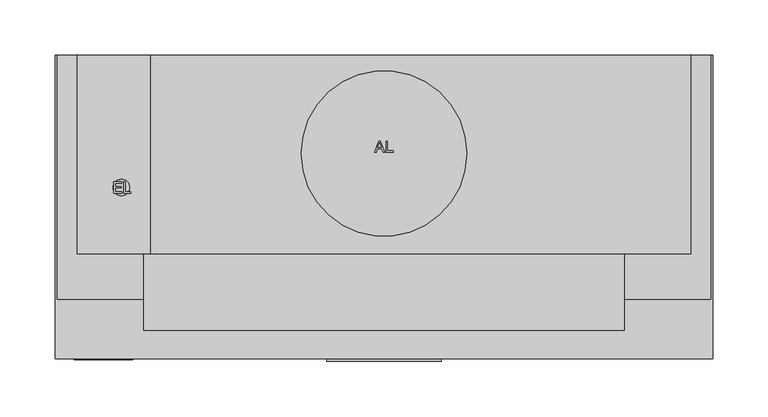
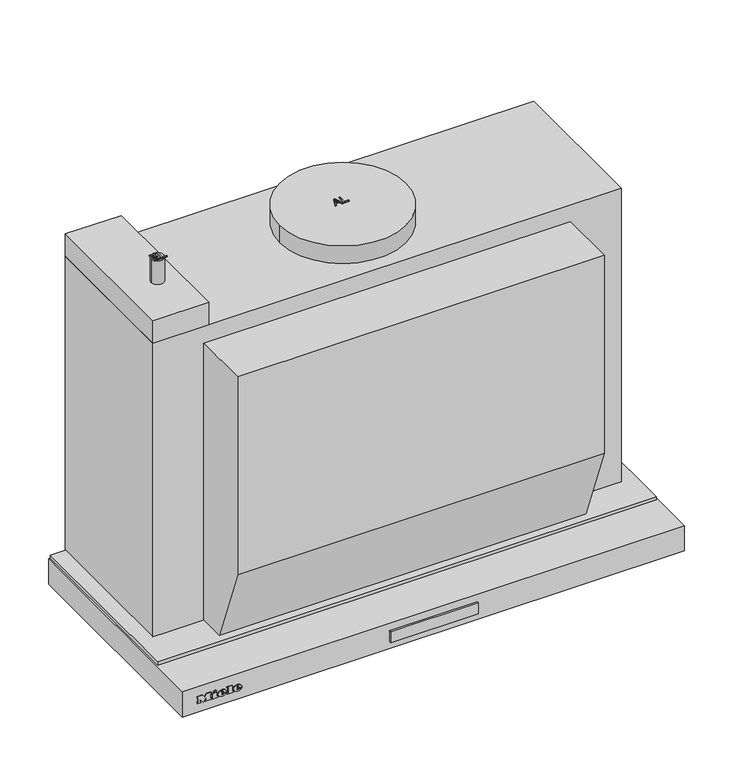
"""IFC4 building model written with IfcOpenShell, lengths in millimetres: proxy geometry, 11878490_USA_DAS2620_EDST : 28S2620S_USA_11878490_DAS2620_EDST."""

from ifc_helpers import new_model, si_unit, point, frame, frame_2d, origin, origin_with_axes, place, context, project, spatial, polyline, circle_curve, ellipse_curve, trimmed, segment, composite_curve, outline, extrude, faceted_brep, source, transform, mapped, element, save
from ifc_brep_helpers import plane_surface, cylinder_surface, revolved_surface, extruded_surface, advanced_brep


def specialty_equipment_a0b4541a(model_context):
    return source(origin(), model_context, "Body", "SolidModel", [
        extrude(outline(polyline([(52.0, -275.0), (52.0, -277.3978707), (-52.0, -277.3978707), (-52.0, -275.0), (52.0, -275.0)])), frame((0.0, 0.0, -23.0389651), z_axis=(0.0, 0.0, 1.0), x_axis=(1.0, 0.0, 0.0)), (0.0, 0.0, 1.0), 13.3389155),
        advanced_brep(
        [(-233.4590019, -276.0, -18.7681017), (-233.4590019, -276.0, -17.8894017), (-227.6387019, -276.0, -17.8894017), (-237.7655019, -276.0, -17.8894017), (-235.3730019, -276.0, -20.8300017), (-227.7866019, -276.0, -18.7681017), (-230.4140019, -276.0, -18.7681017), (-232.4846019, -276.0, -19.7425017), (-233.4590019, -276.0, -16.7758017), (-233.4590019, -276.0, -15.8275017), (-231.9713019, -276.0, -15.8275017), (-231.9713019, -276.0, -16.7758017), (-233.4590019, -275.0, -18.7681017), (-232.4846019, -275.0, -19.7425017), (-230.4140019, -275.0, -18.7681017), (-227.7866019, -275.0, -18.7681017), (-235.3730019, -275.0, -20.8300017), (-237.7655019, -275.0, -17.8894017), (-227.6387019, -275.0, -17.8894017), (-233.4590019, -275.0, -17.8894017), (-233.4590019, -275.0, -16.7758017), (-231.9713019, -275.0, -16.7758017), (-231.9713019, -275.0, -15.8275017), (-233.4590019, -275.0, -15.8275017)],
        [
            (0, 1),
            (1, 2),
            (2, 3, ellipse_curve(frame((-232.7021019, -276.0, -17.8894017), z_axis=(0.0, -1.0, 0.0), x_axis=(-1.0, 0.0, 0.0)), 5.0634, 4.1847)),
            (3, 4, circle_curve(frame((-234.3985544, -276.0, -17.5936017), z_axis=(0.0, -1.0, 0.0), x_axis=(0.0, 0.0, -1.0)), 3.3799161)),
            (4, 5, circle_curve(frame((-232.8034638, -276.0, -15.2968017), z_axis=(0.0, -1.0, 0.0), x_axis=(0.0, 0.0, -1.0)), 6.1007236)),
            (5, 6),
            (6, 7, circle_curve(frame((-232.0593254, -276.0, -17.9590017), z_axis=(0.0, 1.0, 0.0), x_axis=(0.0, 0.0, -1.0)), 1.8335027)),
            (7, 0, circle_curve(frame((-232.4846019, -276.0, -18.7681017), z_axis=(0.0, 1.0, 0.0), x_axis=(0.0, 0.0, -1.0)), 0.9744)),
            (8, 9),
            (9, 10, circle_curve(frame((-232.7151519, -276.0, -15.8275017), z_axis=(0.0, 1.0, 0.0), x_axis=(0.0, 0.0, -1.0)), 0.74385)),
            (10, 11),
            (11, 8),
            (12, 13, circle_curve(frame((-232.4846019, -275.0, -18.7681017), z_axis=(0.0, -1.0, 0.0), x_axis=(0.0, 0.0, -1.0)), 0.9744)),
            (13, 14, circle_curve(frame((-232.0593254, -275.0, -17.9590017), z_axis=(0.0, -1.0, 0.0), x_axis=(0.0, 0.0, -1.0)), 1.8335027)),
            (14, 15),
            (15, 16, circle_curve(frame((-232.8034638, -275.0, -15.2968017), z_axis=(0.0, 1.0, 0.0), x_axis=(0.0, 0.0, -1.0)), 6.1007236)),
            (16, 17, circle_curve(frame((-234.3985544, -275.0, -17.5936017), z_axis=(0.0, 1.0, 0.0), x_axis=(0.0, 0.0, -1.0)), 3.3799161)),
            (17, 18, ellipse_curve(frame((-232.7021019, -275.0, -17.8894017), z_axis=(0.0, 1.0, 0.0), x_axis=(-1.0, 0.0, 0.0)), 5.0634, 4.1847)),
            (18, 19),
            (19, 12),
            (20, 21),
            (21, 22),
            (22, 23, circle_curve(frame((-232.7151519, -275.0, -15.8275017), z_axis=(0.0, -1.0, 0.0), x_axis=(0.0, 0.0, -1.0)), 0.74385)),
            (23, 20),
            (0, 12),
            (19, 1),
            (18, 2),
            (5, 15),
            (14, 6),
            (17, 3),
            (13, 7),
            (16, 4),
            (8, 20),
            (23, 9),
            (22, 10),
            (21, 11),
        ],
        [
            plane_surface(frame((-233.4590019, -276.0, -17.8894017), z_axis=(0.0, -1.0, 0.0), x_axis=(0.0, 0.0, 1.0))),
            plane_surface(frame((-233.4590019, -275.0, -17.8894017), z_axis=(0.0, 1.0, 0.0), x_axis=(0.0, 0.0, -1.0))),
            plane_surface(frame((-233.4590019, -276.0, -18.7681017), z_axis=(1.0, 0.0, 0.0), x_axis=(0.0, 1.0, 0.0))),
            plane_surface(frame((-233.4590019, -276.0, -17.8894017), z_axis=(0.0, 0.0, -1.0), x_axis=(0.0, 1.0, 0.0))),
            plane_surface(frame((-227.7866019, -276.0, -18.7681017), z_axis=(0.0, 0.0, 1.0), x_axis=(0.0, 1.0, 0.0))),
            extruded_surface(trimmed(ellipse_curve(frame((-232.7021019, -274.0, -17.8894017), z_axis=(0.0, -1.0, 0.0), x_axis=(-1.0, 0.0, 0.0)), 5.0634, 4.1847), [point((-227.6387019, -274.0, -17.8894017))], [point((-237.7655019, -274.0, -17.8894017))], True, "CARTESIAN"), (0.0, -1.0, 0.0), 1.0),
            revolved_surface(polyline([(-232.0593254, -275.0, -19.792504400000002), (-232.0593254, -276.0, -19.792504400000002)]), (-232.0593254, -275.0, -17.9590017), (0.0, 1.0, 0.0)),
            revolved_surface(polyline([(-232.4846019, -275.0, -19.7425017), (-232.4846019, -276.0, -19.7425017)]), (-232.4846019, -275.0, -18.7681017), (0.0, 1.0, 0.0)),
            cylinder_surface(frame((-234.3985544, -275.0, -17.5936017), z_axis=(0.0, -1.0, 0.0), x_axis=(0.0, 0.0, -1.0)), 3.3799161),
            cylinder_surface(frame((-232.8034638, -275.0, -15.2968017), z_axis=(0.0, -1.0, 0.0), x_axis=(0.0, 0.0, -1.0)), 6.1007236),
            plane_surface(frame((-233.4590019, -276.0, -16.7758017), z_axis=(1.0, 0.0, 0.0), x_axis=(0.0, 1.0, 0.0))),
            revolved_surface(polyline([(-232.7151519, -275.0, -16.571351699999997), (-232.7151519, -276.0, -16.571351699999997)]), (-232.7151519, -275.0, -15.8275017), (0.0, 1.0, 0.0)),
            plane_surface(frame((-231.9713019, -276.0, -15.8275017), z_axis=(-1.0, 0.0, 0.0), x_axis=(0.0, 1.0, 0.0))),
            plane_surface(frame((-231.9713019, -276.0, -16.7758017), z_axis=(0.0, 0.0, 1.0), x_axis=(0.0, 1.0, 0.0))),
        ],
        [
            (0, [[1, 2, 3, 4, 5, 6, 7, 8], [9, 10, 11, 12]]),
            (1, [[13, 14, 15, 16, 17, 18, 19, 20], [21, 22, 23, 24]]),
            (2, [[-1, 25, -20, 26]]),
            (3, [[-2, -26, -19, 27]]),
            (4, [[-6, 28, -15, 29]]),
            (5, [[-3, -27, -18, 30]]),
            (6, [[-7, -29, -14, 31]]),
            (7, [[-8, -31, -13, -25]]),
            (8, [[-4, -30, -17, 32]]),
            (9, [[-5, -32, -16, -28]]),
            (10, [[-9, 33, -24, 34]]),
            (11, [[-10, -34, -23, 35]]),
            (12, [[-11, -35, -22, 36]]),
            (13, [[-12, -36, -21, -33]]),
        ],
    ),
        advanced_brep(
        [(-251.6159019, -276.0, -18.7681017), (-251.6159019, -276.0, -17.8894017), (-245.7956019, -276.0, -17.8894017), (-255.9224019, -276.0, -17.8894017), (-253.5299019, -276.0, -20.8300017), (-245.9435019, -276.0, -18.7681017), (-248.5709019, -276.0, -18.7681017), (-250.6415019, -276.0, -19.7425017), (-251.6159019, -276.0, -16.7758017), (-251.6159019, -276.0, -15.8275017), (-250.1282019, -276.0, -15.8275017), (-250.1282019, -276.0, -16.7758017), (-251.6159019, -275.0, -18.7681017), (-250.6415019, -275.0, -19.7425017), (-248.5709019, -275.0, -18.7681017), (-245.9435019, -275.0, -18.7681017), (-253.5299019, -275.0, -20.8300017), (-255.9224019, -275.0, -17.8894017), (-245.7956019, -275.0, -17.8894017), (-251.6159019, -275.0, -17.8894017), (-251.6159019, -275.0, -16.7758017), (-250.1282019, -275.0, -16.7758017), (-250.1282019, -275.0, -15.8275017), (-251.6159019, -275.0, -15.8275017)],
        [
            (0, 1),
            (1, 2),
            (2, 3, ellipse_curve(frame((-250.8590019, -276.0, -17.8894017), z_axis=(0.0, -1.0, 0.0), x_axis=(-1.0, 0.0, 0.0)), 5.0634, 4.1847)),
            (3, 4, circle_curve(frame((-252.5554544, -276.0, -17.5936017), z_axis=(0.0, -1.0, 0.0), x_axis=(0.0, 0.0, -1.0)), 3.3799161)),
            (4, 5, circle_curve(frame((-250.9603638, -276.0, -15.2968017), z_axis=(0.0, -1.0, 0.0), x_axis=(0.0, 0.0, -1.0)), 6.1007236)),
            (5, 6),
            (6, 7, circle_curve(frame((-250.2162254, -276.0, -17.9590017), z_axis=(0.0, 1.0, 0.0), x_axis=(0.0, 0.0, -1.0)), 1.8335027)),
            (7, 0, circle_curve(frame((-250.6415019, -276.0, -18.7681017), z_axis=(0.0, 1.0, 0.0), x_axis=(0.0, 0.0, -1.0)), 0.9744)),
            (8, 9),
            (9, 10, circle_curve(frame((-250.8720519, -276.0, -15.8275017), z_axis=(0.0, 1.0, 0.0), x_axis=(0.0, 0.0, -1.0)), 0.74385)),
            (10, 11),
            (11, 8),
            (12, 13, circle_curve(frame((-250.6415019, -275.0, -18.7681017), z_axis=(0.0, -1.0, 0.0), x_axis=(0.0, 0.0, -1.0)), 0.9744)),
            (13, 14, circle_curve(frame((-250.2162254, -275.0, -17.9590017), z_axis=(0.0, -1.0, 0.0), x_axis=(0.0, 0.0, -1.0)), 1.8335027)),
            (14, 15),
            (15, 16, circle_curve(frame((-250.9603638, -275.0, -15.2968017), z_axis=(0.0, 1.0, 0.0), x_axis=(0.0, 0.0, -1.0)), 6.1007236)),
            (16, 17, circle_curve(frame((-252.5554544, -275.0, -17.5936017), z_axis=(0.0, 1.0, 0.0), x_axis=(0.0, 0.0, -1.0)), 3.3799161)),
            (17, 18, ellipse_curve(frame((-250.8590019, -275.0, -17.8894017), z_axis=(0.0, 1.0, 0.0), x_axis=(-1.0, 0.0, 0.0)), 5.0634, 4.1847)),
            (18, 19),
            (19, 12),
            (20, 21),
            (21, 22),
            (22, 23, circle_curve(frame((-250.8720519, -275.0, -15.8275017), z_axis=(0.0, -1.0, 0.0), x_axis=(0.0, 0.0, -1.0)), 0.74385)),
            (23, 20),
            (0, 12),
            (19, 1),
            (18, 2),
            (5, 15),
            (14, 6),
            (17, 3),
            (13, 7),
            (16, 4),
            (8, 20),
            (23, 9),
            (22, 10),
            (21, 11),
        ],
        [
            plane_surface(frame((-251.6159019, -276.0, -17.8894017), z_axis=(0.0, -1.0, 0.0), x_axis=(0.0, 0.0, 1.0))),
            plane_surface(frame((-251.6159019, -275.0, -17.8894017), z_axis=(0.0, 1.0, 0.0), x_axis=(0.0, 0.0, -1.0))),
            plane_surface(frame((-251.6159019, -276.0, -18.7681017), z_axis=(1.0, 0.0, 0.0), x_axis=(0.0, 1.0, 0.0))),
            plane_surface(frame((-251.6159019, -276.0, -17.8894017), z_axis=(0.0, 0.0, -1.0), x_axis=(0.0, 1.0, 0.0))),
            plane_surface(frame((-245.9435019, -276.0, -18.7681017), z_axis=(0.0, 0.0, 1.0), x_axis=(0.0, 1.0, 0.0))),
            extruded_surface(trimmed(ellipse_curve(frame((-250.8590019, -274.0, -17.8894017), z_axis=(0.0, -1.0, 0.0), x_axis=(-1.0, 0.0, 0.0)), 5.0634, 4.1847), [point((-245.7956019, -274.0, -17.8894017))], [point((-255.9224019, -274.0, -17.8894017))], True, "CARTESIAN"), (0.0, -1.0, 0.0), 1.0),
            revolved_surface(polyline([(-250.2162254, -275.0, -19.792504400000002), (-250.2162254, -276.0, -19.792504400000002)]), (-250.2162254, -275.0, -17.9590017), (0.0, 1.0, 0.0)),
            revolved_surface(polyline([(-250.6415019, -275.0, -19.7425017), (-250.6415019, -276.0, -19.7425017)]), (-250.6415019, -275.0, -18.7681017), (0.0, 1.0, 0.0)),
            cylinder_surface(frame((-252.5554544, -275.0, -17.5936017), z_axis=(0.0, -1.0, 0.0), x_axis=(0.0, 0.0, -1.0)), 3.3799161),
            cylinder_surface(frame((-250.9603638, -275.0, -15.2968017), z_axis=(0.0, -1.0, 0.0), x_axis=(0.0, 0.0, -1.0)), 6.1007236),
            plane_surface(frame((-251.6159019, -276.0, -16.7758017), z_axis=(1.0, 0.0, 0.0), x_axis=(0.0, 1.0, 0.0))),
            revolved_surface(polyline([(-250.8720519, -275.0, -16.571351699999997), (-250.8720519, -276.0, -16.571351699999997)]), (-250.8720519, -275.0, -15.8275017), (0.0, 1.0, 0.0)),
            plane_surface(frame((-250.1282019, -276.0, -15.8275017), z_axis=(-1.0, 0.0, 0.0), x_axis=(0.0, 1.0, 0.0))),
            plane_surface(frame((-250.1282019, -276.0, -16.7758017), z_axis=(0.0, 0.0, 1.0), x_axis=(0.0, 1.0, 0.0))),
        ],
        [
            (0, [[1, 2, 3, 4, 5, 6, 7, 8], [9, 10, 11, 12]]),
            (1, [[13, 14, 15, 16, 17, 18, 19, 20], [21, 22, 23, 24]]),
            (2, [[-1, 25, -20, 26]]),
            (3, [[-2, -26, -19, 27]]),
            (4, [[-6, 28, -15, 29]]),
            (5, [[-3, -27, -18, 30]]),
            (6, [[-7, -29, -14, 31]]),
            (7, [[-8, -31, -13, -25]]),
            (8, [[-4, -30, -17, 32]]),
            (9, [[-5, -32, -16, -28]]),
            (10, [[-9, 33, -24, 34]]),
            (11, [[-10, -34, -23, 35]]),
            (12, [[-11, -35, -22, 36]]),
            (13, [[-12, -36, -21, -33]]),
        ],
    ),
        extrude(outline(polyline([(-12.6433017, -261.1250019), (-14.0527017, -260.4638019), (-12.6781017, -257.5145019), (-11.2687017, -258.1670019), (-12.6433017, -261.1250019)])), frame((0.0, -276.0, 0.0), z_axis=(0.0, 1.0, 0.0), x_axis=(0.0, 0.0, 1.0)), (0.0, 0.0, 1.0), 1.0),
        extrude(outline(polyline([(-14.2441017, -263.2739019), (-15.8014017, -263.2739019), (-15.8014017, -262.2386019), (-19.3684017, -262.2386019), (-19.3684017, -263.2739019), (-20.8300017, -263.2739019), (-20.8300017, -256.4096019), (-19.3684017, -256.4096019), (-19.3684017, -257.4188019), (-14.2441017, -257.4188019), (-14.2441017, -263.2739019)])), frame((0.0, -276.0, 0.0), z_axis=(0.0, 1.0, 0.0), x_axis=(0.0, 0.0, 1.0)), (0.0, 0.0, 1.0), 1.0),
        extrude(outline(polyline([(-13.5481017, -245.3084019), (-13.5481017, -244.2644019), (-19.3684017, -244.2644019), (-19.3684017, -245.3084019), (-20.8300017, -245.3084019), (-20.8300017, -238.2527019), (-19.3684017, -238.2527019), (-19.3684017, -239.3228019), (-12.1300017, -239.3228019), (-12.1300017, -245.3084019), (-13.5481017, -245.3084019)])), frame((0.0, -276.0, 0.0), z_axis=(0.0, 1.0, 0.0), x_axis=(0.0, 0.0, 1.0)), (0.0, 0.0, 1.0), 1.0),
        extrude(outline(polyline([(-13.5481017, -280.6130019), (-13.5481017, -279.5603019), (-19.3684017, -279.5603019), (-19.3684017, -280.6130019), (-20.8300017, -280.6130019), (-20.8300017, -276.7850019), (-19.3684017, -276.7850019), (-19.3684017, -277.8290019), (-15.6719769, -277.8290019), (-20.8300017, -273.9401019), (-15.5772794, -270.0338019), (-19.3684017, -270.0338019), (-19.3684017, -271.1039019), (-20.8300017, -271.1039019), (-20.8300017, -264.1613019), (-19.3684017, -264.1613019), (-19.3684017, -265.2662019), (-13.5481017, -265.2662019), (-13.5481017, -264.1613019), (-12.1300017, -264.1613019), (-12.1300017, -269.4596019), (-15.3925017, -272.0000019), (-12.1300017, -274.5491019), (-12.1300017, -280.6130019), (-13.5481017, -280.6130019)])), frame((0.0, -276.0, 0.0), z_axis=(0.0, 1.0, 0.0), x_axis=(0.0, 0.0, 1.0)), (0.0, 0.0, 1.0), 1.0),
        extrude(outline(polyline([(120.0, -19.25), (120.0, -31.75), (-120.0, -31.75), (-120.0, -19.25), (120.0, -19.25)])), frame((0.0, 0.0, -23.0), z_axis=(0.0, 0.0, 1.0), x_axis=(1.0, 0.0, 0.0)), (0.0, 0.0, 1.0), 1.785426),
        extrude(outline(polyline([(296.0, 0.0), (296.0, -221.0), (-296.0, -221.0), (-296.0, 0.0), (296.0, 0.0)])), origin_with_axes(), (0.0, 0.0, 1.0), 4.0),
        extrude(outline(polyline([(-8.547125, -87.975609), (-4.5372113, -77.929978), (-3.4679009, -77.929978), (0.5420128, -87.975609), (-0.7848149, -87.975609), (-1.9350593, -84.8363493), (-6.0725055, -84.8363493), (-7.2202973, -87.975609), (-8.547125, -87.975609)]), holes=[polyline([(-5.6114267, -83.5806455), (-2.3936855, -83.5806455), (-3.2986752, -81.110931), (-4.0025561, -79.1856819), (-4.6279555, -80.8951069), (-5.6114267, -83.5806455)])]), frame((0.0, 0.0, 395.0), z_axis=(0.0, 0.0, 1.0), x_axis=(1.0, 0.0, 0.0)), (0.0, 0.0, 1.0), 1.0),
        extrude(outline(polyline([(1.8835558, -87.975609), (1.8835558, -77.929978), (3.1392597, -77.929978), (3.1392597, -86.7199052), (8.1620752, -86.7199052), (8.1620752, -87.975609), (1.8835558, -87.975609)])), frame((0.0, 0.0, 395.0), z_axis=(0.0, 0.0, 1.0), x_axis=(1.0, 0.0, 0.0)), (0.0, 0.0, 1.0), 1.0),
        extrude(outline(polyline([(-180.0, 352.0), (-180.0, 4.0), (-211.7966838, 4.0), (-249.5, 103.2192532), (-249.5, 352.0), (-180.0, 352.0)])), frame((-217.7156244, 0.0, 0.0), z_axis=(1.0, 0.0, 0.0), x_axis=(0.0, 1.0, 0.0)), (0.0, 0.0, 1.0), 435.4312488),
        faceted_brep([(298.0, 0.0, -32.0), (298.0, -275.0, -32.0), (-298.0, -275.0, -32.0), (-298.0, 0.0, -32.0), (-263.0, 0.0, -32.0), (-263.0, -242.0, -32.0), (263.0, -242.0, -32.0), (263.0, 0.0, -32.0), (298.0, 0.0, 0.0), (-298.0, 0.0, 0.0), (-298.0, -275.0, 0.0), (298.0, -275.0, 0.0), (263.0, 0.0, -24.0), (-263.0, 0.0, -24.0), (263.0, -242.0, -25.0), (-263.0, -242.0, -25.0), (-263.0, -52.0, -25.0), (263.0, -52.0, -25.0), (-263.0, -52.0, -24.0), (263.0, -52.0, -24.0), (126.0, -12.0, -24.0), (-126.0, -12.0, -24.0), (-126.0, -39.0, -24.0), (126.0, -39.0, -24.0), (126.0, -12.0, -21.214574), (126.0, -39.0, -21.214574), (-126.0, -39.0, -21.214574), (-126.0, -12.0, -21.214574)], [[[0, 1, 2, 3, 4, 5, 6, 7]], [[8, 9, 10, 11]], [[9, 8, 0, 7, 12, 13, 4, 3]], [[3, 2, 10, 9]], [[2, 1, 11, 10]], [[1, 0, 8, 11]], [[14, 15, 16, 17]], [[15, 5, 4, 13, 18, 16]], [[15, 14, 6, 5]], [[6, 14, 17, 19, 12, 7]], [[12, 19, 18, 13], [20, 21, 22, 23]], [[18, 19, 17, 16]], [[24, 25, 26, 27]], [[24, 27, 21, 20]], [[27, 26, 22, 21]], [[26, 25, 23, 22]], [[25, 24, 20, 23]]]),
        extrude(outline(polyline([(-278.0, -180.0), (-278.0, 0.0), (-212.0, 0.0), (-212.0, -180.0), (-278.0, -180.0)])), frame((0.0, 0.0, 373.0), z_axis=(0.0, 0.0, 1.0), x_axis=(1.0, 0.0, 0.0)), (0.0, 0.0, 1.0), 28.0),
        extrude(outline(composite_curve([segment(trimmed(circle_curve(frame_2d((0.0, -89.0)), 75.0), [point((-75.0, -89.0))], [point((75.0, -89.0))], False, "CARTESIAN"), True, "CONTINUOUS"), segment(trimmed(circle_curve(frame_2d((0.0, -89.0)), 75.0), [point((75.0, -89.0))], [point((-75.0, -89.0))], False, "CARTESIAN"), True, "CONTINUOUS")], self_intersect=False)), frame((0.0, 0.0, 373.0), z_axis=(0.0, 0.0, 1.0), x_axis=(1.0, 0.0, 0.0)), (0.0, 0.0, 1.0), 22.0),
        extrude(outline(polyline([(278.0, -180.0), (-278.0, -180.0), (-278.0, 0.0), (278.0, 0.0), (278.0, -180.0)])), frame((0.0, 0.0, 4.0), z_axis=(0.0, 0.0, 1.0), x_axis=(1.0, 0.0, 0.0)), (0.0, 0.0, 1.0), 369.0),
        extrude(outline(polyline([(-244.9012591, -124.9184735), (-244.9012591, -114.8728425), (-237.6809618, -114.8728425), (-237.6809618, -116.1285464), (-243.6455552, -116.1285464), (-243.6455552, -119.1108431), (-237.9948878, -119.1108431), (-237.9948878, -120.366547), (-243.6455552, -120.366547), (-243.6455552, -123.6627696), (-237.5239988, -123.6627696), (-237.5239988, -124.9184735), (-244.9012591, -124.9184735)])), frame((0.0, 0.0, 431.0), z_axis=(0.0, 0.0, 1.0), x_axis=(1.0, 0.0, 0.0)), (0.0, 0.0, 1.0), 1.0),
        extrude(outline(polyline([(-235.640443, -124.9184735), (-235.640443, -114.8728425), (-234.3847391, -114.8728425), (-234.3847391, -123.6627696), (-229.3619236, -123.6627696), (-229.3619236, -124.9184735), (-235.640443, -124.9184735)])), frame((0.0, 0.0, 431.0), z_axis=(0.0, 0.0, 1.0), x_axis=(1.0, 0.0, 0.0)), (0.0, 0.0, 1.0), 1.0),
        extrude(outline(composite_curve([segment(trimmed(circle_curve(frame_2d((-238.0, -120.0)), 7.5), [point((-230.5, -120.0))], [point((-245.5, -120.0))], False, "CARTESIAN"), True, "CONTINUOUS"), segment(trimmed(circle_curve(frame_2d((-238.0, -120.0)), 7.5), [point((-245.5, -120.0))], [point((-230.5, -120.0))], False, "CARTESIAN"), True, "CONTINUOUS")], self_intersect=False)), frame((0.0, 0.0, 401.0), z_axis=(0.0, 0.0, 1.0), x_axis=(1.0, 0.0, 0.0)), (0.0, 0.0, 1.0), 30.0),
        extrude(outline(polyline([(181.0813184, -268.0), (181.0813184, -246.0), (249.0, -246.0), (249.0, -268.0), (181.0813184, -268.0)])), frame((0.0, 0.0, -33.3019181), z_axis=(0.0, 0.0, 1.0), x_axis=(1.0, 0.0, 0.0)), (0.0, 0.0, 1.0), 1.3019181),
        extrude(outline(polyline([(-249.0, -268.0), (-249.0, -246.0), (-181.0, -246.0), (-181.0, -268.0), (-249.0, -268.0)])), frame((0.0, 0.0, -33.3019181), z_axis=(0.0, 0.0, 1.0), x_axis=(1.0, 0.0, 0.0)), (0.0, 0.0, 1.0), 1.3019181),
    ])


if __name__ == "__main__":
    model = new_model("IFC4")
    model_context = context("Model", 3, world=origin())
    ifc_project = project(units=[si_unit("LENGTHUNIT", "METRE", prefix="MILLI")], contexts=[model_context])
    site = spatial("IfcSite", under=ifc_project)
    building = spatial("IfcBuilding", under=site)
    placement = place(None, origin())
    specialty_equipment_shape = specialty_equipment_a0b4541a(model_context)
    element("IfcBuildingElementProxy", 1, Name="11878490_USA_DAS2620_EDST : 28S2620S_USA_11878490_DAS2620_EDST", ObjectType="11878490_USA_DAS2620_EDST : 28S2620S_USA_11878490_DAS2620_EDST", at=placement, inside=building, context=model_context, shape_type="MappedRepresentation", body=[
        mapped(specialty_equipment_shape, transform((0.0, 0.0, 0.0), x_axis=(1.0, 0.0, 0.0), y_axis=(0.0, 1.0, 0.0), z_axis=(0.0, 0.0, 1.0))),
    ])
    save(model, "model.ifc")
